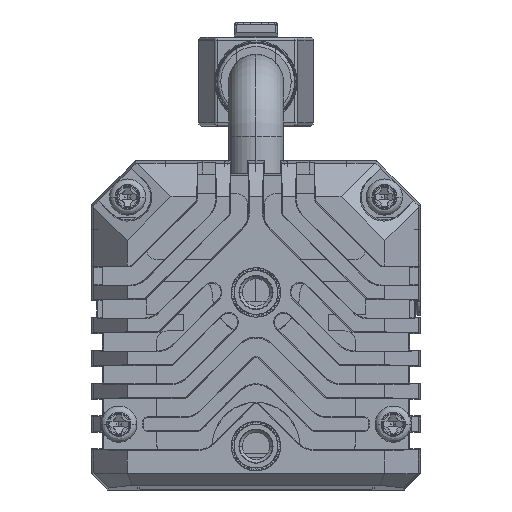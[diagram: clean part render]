
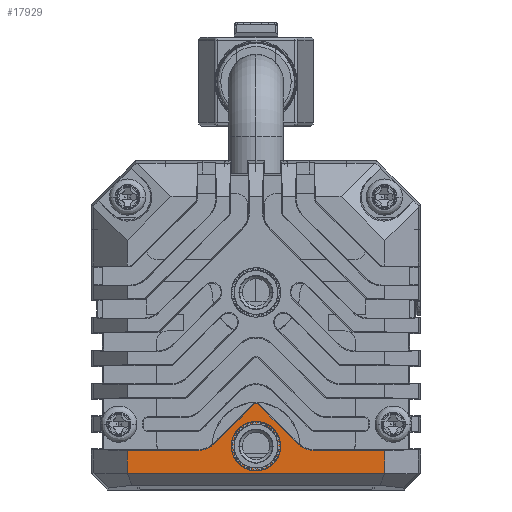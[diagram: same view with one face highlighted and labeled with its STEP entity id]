
A CAD part, left-side view. The second image highlights one B-rep face of the part: STEP entity #17929.
In plain terms, the highlighted planar face has unit normal (-1, 0, 0) as drawn and (1, 0, 0) by its records, which use the part's own axes.
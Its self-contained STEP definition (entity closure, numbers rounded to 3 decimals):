
#10837=CARTESIAN_POINT('',(5.,0.,7.527));
#10838=DIRECTION('',(1.,0.,0.));
#10839=DIRECTION('',(0.,0.707,0.707));
#10840=AXIS2_PLACEMENT_3D('',#10837,#10838,#10839);
#10846=DIRECTION('',(0.,0.707,-0.707));
#10847=VECTOR('',#10846,5.013);
#10848=CARTESIAN_POINT('',(5.,0.242,7.769));
#10849=LINE('',#10848,#10847);
#10853=DIRECTION('',(0.,-1.,0.));
#10854=VECTOR('',#10853,6.438);
#10855=CARTESIAN_POINT('',(5.,11.75,3.593));
#10856=LINE('',#10855,#10854);
#10860=DIRECTION('',(0.,0.,1.));
#10861=VECTOR('',#10860,2.093);
#10862=CARTESIAN_POINT('',(5.,11.75,1.5));
#10863=LINE('',#10862,#10861);
#10867=DIRECTION('',(0.,1.,0.));
#10868=VECTOR('',#10867,23.5);
#10869=CARTESIAN_POINT('',(5.,-11.75,1.5));
#10870=LINE('',#10869,#10868);
#10874=DIRECTION('',(0.,0.,-1.));
#10875=VECTOR('',#10874,2.093);
#10876=CARTESIAN_POINT('',(5.,-11.75,3.593));
#10877=LINE('',#10876,#10875);
#10881=DIRECTION('',(0.,1.,0.));
#10882=VECTOR('',#10881,6.438);
#10883=CARTESIAN_POINT('',(5.,-11.75,3.593));
#10884=LINE('',#10883,#10882);
#10888=DIRECTION('',(0.,0.707,0.707));
#10889=VECTOR('',#10888,5.013);
#10890=CARTESIAN_POINT('',(5.,-3.787,4.225));
#10891=LINE('',#10890,#10889);
#10895=CARTESIAN_POINT('',(5.,0.,4.));
#10896=DIRECTION('',(1.,0.,0.));
#10897=DIRECTION('',(0.,1.,0.));
#10898=AXIS2_PLACEMENT_3D('',#10895,#10896,#10897);
#10903=CARTESIAN_POINT('',(5.,0.,4.));
#10904=DIRECTION('',(1.,0.,0.));
#10905=DIRECTION('',(0.,-1.,0.));
#10906=AXIS2_PLACEMENT_3D('',#10903,#10904,#10905);
#11632=CARTESIAN_POINT('',(5.,-5.312,5.75));
#11633=DIRECTION('',(-1.,0.,0.));
#11634=DIRECTION('',(0.,0.707,-0.707));
#11635=AXIS2_PLACEMENT_3D('',#11632,#11633,#11634);
#15151=CARTESIAN_POINT('',(5.,5.312,5.75));
#15152=DIRECTION('',(-1.,0.,0.));
#15153=DIRECTION('',(0.,0.,-1.));
#15154=AXIS2_PLACEMENT_3D('',#15151,#15152,#15153);
#16824=CARTESIAN_POINT('',(5.,2.,4.));
#16825=CARTESIAN_POINT('',(5.,-2.,4.));
#16826=VERTEX_POINT('',#16824);
#16827=VERTEX_POINT('',#16825);
#16828=CARTESIAN_POINT('',(5.,-11.75,1.5));
#16829=CARTESIAN_POINT('',(5.,11.75,1.5));
#16830=VERTEX_POINT('',#16828);
#16831=VERTEX_POINT('',#16829);
#16930=CARTESIAN_POINT('',(5.,5.312,3.593));
#16931=VERTEX_POINT('',#16930);
#16932=CARTESIAN_POINT('',(5.,3.787,4.225));
#16933=VERTEX_POINT('',#16932);
#16938=CARTESIAN_POINT('',(5.,-3.787,4.225));
#16939=VERTEX_POINT('',#16938);
#16940=CARTESIAN_POINT('',(5.,-5.312,3.593));
#16941=VERTEX_POINT('',#16940);
#17018=CARTESIAN_POINT('',(5.,-11.75,3.593));
#17019=VERTEX_POINT('',#17018);
#17020=CARTESIAN_POINT('',(5.,11.75,3.593));
#17021=VERTEX_POINT('',#17020);
#17038=CARTESIAN_POINT('',(5.,0.242,7.769));
#17039=CARTESIAN_POINT('',(5.,-0.242,7.769));
#17040=VERTEX_POINT('',#17038);
#17041=VERTEX_POINT('',#17039);
#17896=CARTESIAN_POINT('',(5.,0.,0.));
#17897=DIRECTION('',(1.,0.,0.));
#17898=DIRECTION('',(0.,1.,0.));
#17899=AXIS2_PLACEMENT_3D('',#17896,#17897,#17898);
#17900=PLANE('',#17899);
#17902=ORIENTED_EDGE('',*,*,#17901,.F.);
#17904=ORIENTED_EDGE('',*,*,#17903,.T.);
#17906=ORIENTED_EDGE('',*,*,#17905,.F.);
#17908=ORIENTED_EDGE('',*,*,#17907,.F.);
#17910=ORIENTED_EDGE('',*,*,#17909,.F.);
#17912=ORIENTED_EDGE('',*,*,#17911,.F.);
#17914=ORIENTED_EDGE('',*,*,#17913,.F.);
#17916=ORIENTED_EDGE('',*,*,#17915,.T.);
#17918=ORIENTED_EDGE('',*,*,#17917,.F.);
#17920=ORIENTED_EDGE('',*,*,#17919,.T.);
#17921=EDGE_LOOP('',(#17902,#17904,#17906,#17908,#17910,#17912,#17914,#17916,
#17918,#17920));
#17922=FACE_OUTER_BOUND('',#17921,.F.);
#17924=ORIENTED_EDGE('',*,*,#17923,.T.);
#17926=ORIENTED_EDGE('',*,*,#17925,.T.);
#17927=EDGE_LOOP('',(#17924,#17926));
#17928=FACE_BOUND('',#17927,.F.);
#10841=CIRCLE('',#10840,0.343);
#10899=CIRCLE('',#10898,2.);
#10907=CIRCLE('',#10906,2.);
#11636=CIRCLE('',#11635,2.157);
#15155=CIRCLE('',#15154,2.157);
#17901=EDGE_CURVE('',#17040,#17041,#10841,.T.);
#17903=EDGE_CURVE('',#17040,#16933,#10849,.T.);
#17905=EDGE_CURVE('',#16931,#16933,#15155,.T.);
#17907=EDGE_CURVE('',#17021,#16931,#10856,.T.);
#17909=EDGE_CURVE('',#16831,#17021,#10863,.T.);
#17911=EDGE_CURVE('',#16830,#16831,#10870,.T.);
#17913=EDGE_CURVE('',#17019,#16830,#10877,.T.);
#17915=EDGE_CURVE('',#17019,#16941,#10884,.T.);
#17917=EDGE_CURVE('',#16939,#16941,#11636,.T.);
#17919=EDGE_CURVE('',#16939,#17041,#10891,.T.);
#17923=EDGE_CURVE('',#16826,#16827,#10899,.T.);
#17925=EDGE_CURVE('',#16827,#16826,#10907,.T.);
#17929=ADVANCED_FACE('',(#17922,#17928),#17900,.T.);
